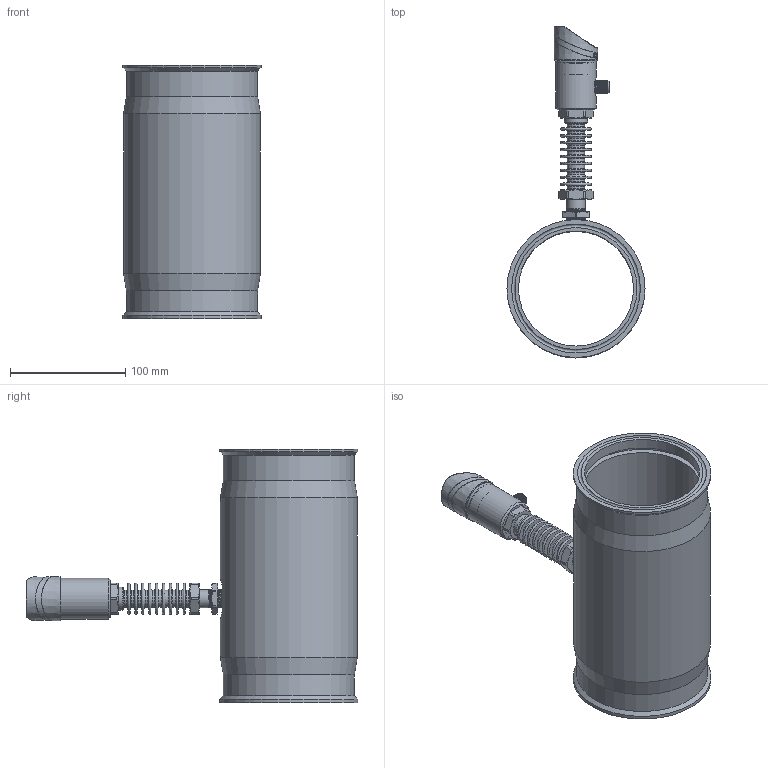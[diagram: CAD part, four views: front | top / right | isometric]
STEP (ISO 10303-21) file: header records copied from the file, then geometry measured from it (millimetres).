
FILE_DESCRIPTION( (''), '2;1');
FILE_NAME( 'QTKE_DN100_tri-clamp_high-temp.step', '2024-10-15T08:19:47+08:00', (''), (''), '', '', '');
FILE_SCHEMA (('AUTOMOTIVE_DESIGN { 1 0 10303 214 3 1 1 1 }'));
Length unit declared in the file: millimetre
Products named in the file (1): QTKE DN100_tri-clamp_high-temp
Bounding box: 120 x 288.5 x 220 mm (x, y, z)
Volume: 689336.9 mm3; surface area: 210731.2 mm2
Topology: 5 solids, 5 shells, 988 faces, 2522 edges, 1637 vertices
Faces by surface type: plane 403, cylinder 172, extrusion 160, cone 111, torus 62, bspline 59, sphere 21
Full cylindrical faces by diameter (mm): 1.689 x1, 2 x1, 2.7 x6, 3.5 x5, 12 x1, 13 x1, 15 x10, 15.9 x1, 16.5 x1, 20 x1, 23 x3, 26 x5, 31.7 x1, 32 x1, 34 x1, 34.2 x1, 35.5 x2, 100 x3, 110 x2, 114 x2, 119 x1, 120 x2
Entity records: 42879 total; most frequent: CARTESIAN_POINT 16258, ORIENTED_EDGE 4628, DIRECTION 4072, EDGE_CURVE 2314, VERTEX_POINT 1574, AXIS2_PLACEMENT_3D 1456, EDGE_LOOP 1236, VECTOR 1160
